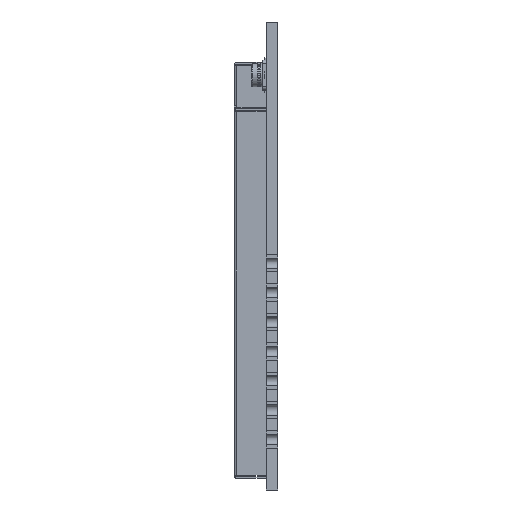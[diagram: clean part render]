
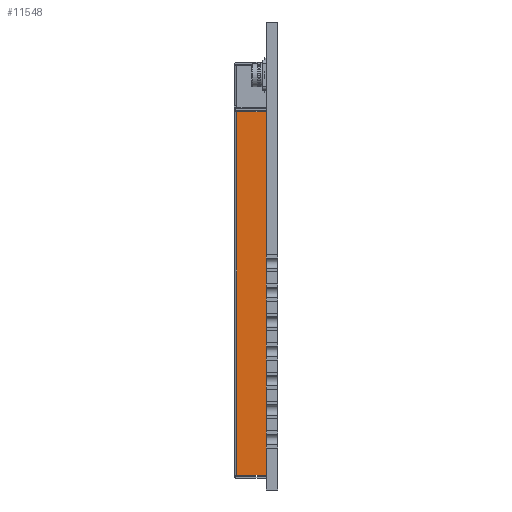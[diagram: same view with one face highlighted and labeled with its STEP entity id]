
A CAD part, left-side view. The second image highlights one B-rep face of the part: STEP entity #11548.
In plain terms, the highlighted planar face has unit normal (-1, 0, 0).
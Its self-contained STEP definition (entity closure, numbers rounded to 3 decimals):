
#110 = VECTOR ( 'NONE', #7260, 1000. ) ;
#278 = CARTESIAN_POINT ( 'NONE',  ( -10.1, 48.82, 12.494 ) ) ;
#719 = VERTEX_POINT ( 'NONE', #6179 ) ;
#929 = VECTOR ( 'NONE', #1914, 1000. ) ;
#1264 = DIRECTION ( 'NONE',  ( 0., -1., 0. ) ) ;
#1308 = VERTEX_POINT ( 'NONE', #8213 ) ;
#1914 = DIRECTION ( 'NONE',  ( 0., 0., 1. ) ) ;
#2725 = EDGE_LOOP ( 'NONE', ( #15115, #3125, #2829, #3995 ) ) ;
#2829 = ORIENTED_EDGE ( 'NONE', *, *, #9835, .T. ) ;
#2895 = EDGE_CURVE ( 'NONE', #14237, #719, #11371, .T. ) ;
#2974 = VERTEX_POINT ( 'NONE', #10505 ) ;
#3125 = ORIENTED_EDGE ( 'NONE', *, *, #6151, .T. ) ;
#3172 = DIRECTION ( 'NONE',  ( 0., 0., -1. ) ) ;
#3995 = ORIENTED_EDGE ( 'NONE', *, *, #2895, .T. ) ;
#4163 = EDGE_CURVE ( 'NONE', #719, #1308, #14323, .T. ) ;
#4372 = CARTESIAN_POINT ( 'NONE',  ( -10.1, 1., -18.994 ) ) ;
#5483 = CARTESIAN_POINT ( 'NONE',  ( -10.1, 1., 12.75 ) ) ;
#5651 = FACE_OUTER_BOUND ( 'NONE', #2725, .T. ) ;
#6151 = EDGE_CURVE ( 'NONE', #1308, #2974, #9233, .T. ) ;
#6179 = CARTESIAN_POINT ( 'NONE',  ( -10.1, 1., 12.494 ) ) ;
#6236 = CARTESIAN_POINT ( 'NONE',  ( -10.1, 48.82, -18.994 ) ) ;
#6918 = DIRECTION ( 'NONE',  ( 0., 0., -1. ) ) ;
#7052 = VECTOR ( 'NONE', #6918, 1000. ) ;
#7260 = DIRECTION ( 'NONE',  ( 0., 1., 0. ) ) ;
#8084 = CARTESIAN_POINT ( 'NONE',  ( -10.1, 3.57, -18.994 ) ) ;
#8213 = CARTESIAN_POINT ( 'NONE',  ( -10.1, 3.57, 12.494 ) ) ;
#8973 = DIRECTION ( 'NONE',  ( 1., 0., 0. ) ) ;
#9233 = LINE ( 'NONE', #8084, #7052 ) ;
#9809 = LINE ( 'NONE', #6236, #12580 ) ;
#9835 = EDGE_CURVE ( 'NONE', #2974, #14237, #9809, .T. ) ;
#10490 = AXIS2_PLACEMENT_3D ( 'NONE', #12566, #8973, #3172 ) ;
#10505 = CARTESIAN_POINT ( 'NONE',  ( -10.1, 3.57, -18.994 ) ) ;
#11371 = LINE ( 'NONE', #5483, #929 ) ;
#11548 = ADVANCED_FACE ( 'NONE', ( #5651 ), #13802, .F. ) ;
#12566 = CARTESIAN_POINT ( 'NONE',  ( -10.1, 48.82, 12.75 ) ) ;
#12580 = VECTOR ( 'NONE', #1264, 1000. ) ;
#13802 = PLANE ( 'NONE',  #10490 ) ;
#14237 = VERTEX_POINT ( 'NONE', #4372 ) ;
#14323 = LINE ( 'NONE', #278, #110 ) ;
#15115 = ORIENTED_EDGE ( 'NONE', *, *, #4163, .T. ) ;
